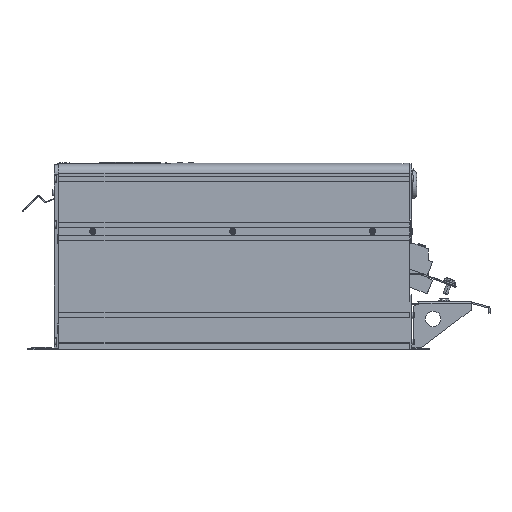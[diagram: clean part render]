
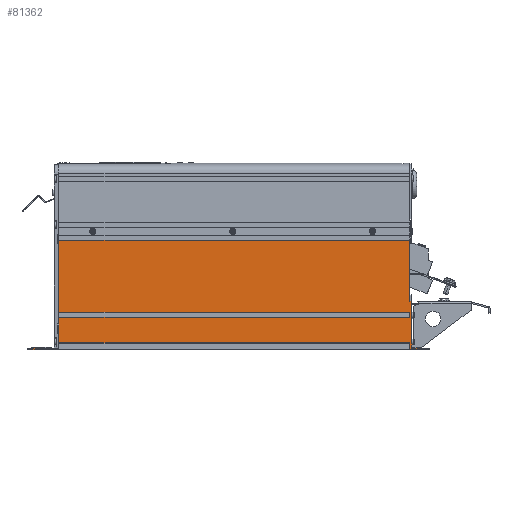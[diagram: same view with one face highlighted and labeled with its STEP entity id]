
A CAD part, left-side view. The second image highlights one B-rep face of the part: STEP entity #81362.
In plain terms, the highlighted planar face has unit normal (-1, 0, 0).
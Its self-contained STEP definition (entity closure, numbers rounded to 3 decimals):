
#219=DIRECTION('',(0.,0.,1.));
#220=VECTOR('',#219,8.);
#221=CARTESIAN_POINT('',(-115.,-227.95,1.1));
#222=LINE('',#221,#220);
#243=DIRECTION('',(0.,0.,1.));
#244=VECTOR('',#243,6.6);
#245=CARTESIAN_POINT('',(-115.,-227.95,42.1));
#246=LINE('',#245,#244);
#673=DIRECTION('',(0.,0.,1.));
#674=VECTOR('',#673,78.6);
#675=CARTESIAN_POINT('',(-115.,-227.95,62.5));
#676=LINE('',#675,#674);
#9723=DIRECTION('',(0.,-1.,0.));
#9724=VECTOR('',#9723,36.);
#9725=CARTESIAN_POINT('',(-115.,259.75,0.));
#9726=LINE('',#9725,#9724);
#9767=DIRECTION('',(0.,-1.,0.));
#9768=VECTOR('',#9767,460.);
#9769=CARTESIAN_POINT('',(-115.,211.75,0.));
#9770=LINE('',#9769,#9768);
#9895=DIRECTION('',(0.,1.,0.));
#9896=VECTOR('',#9895,12.);
#9897=CARTESIAN_POINT('',(-115.,211.75,1.));
#9898=LINE('',#9897,#9896);
#9899=DIRECTION('',(0.,0.,1.));
#9900=VECTOR('',#9899,1.);
#9901=CARTESIAN_POINT('',(-115.,223.75,0.));
#9902=LINE('',#9901,#9900);
#9903=DIRECTION('',(0.,-1.,0.));
#9904=VECTOR('',#9903,451.7);
#9905=CARTESIAN_POINT('',(-115.,223.75,1.1));
#9906=LINE('',#9905,#9904);
#9907=DIRECTION('',(0.,-1.,0.));
#9908=VECTOR('',#9907,451.7);
#9909=CARTESIAN_POINT('',(-115.,223.75,9.1));
#9910=LINE('',#9909,#9908);
#9911=DIRECTION('',(0.,0.,-1.));
#9912=VECTOR('',#9911,12.4);
#9913=CARTESIAN_POINT('',(-115.,223.75,21.5));
#9914=LINE('',#9913,#9912);
#9915=DIRECTION('',(0.,0.,-1.));
#9916=VECTOR('',#9915,8.6);
#9917=CARTESIAN_POINT('',(-115.,223.75,42.1));
#9918=LINE('',#9917,#9916);
#9919=DIRECTION('',(0.,-1.,0.));
#9920=VECTOR('',#9919,451.7);
#9921=CARTESIAN_POINT('',(-115.,223.75,42.1));
#9922=LINE('',#9921,#9920);
#9923=DIRECTION('',(0.,-1.,0.));
#9924=VECTOR('',#9923,451.7);
#9925=CARTESIAN_POINT('',(-115.,223.75,48.7));
#9926=LINE('',#9925,#9924);
#9927=DIRECTION('',(0.,0.,-1.));
#9928=VECTOR('',#9927,87.8);
#9929=CARTESIAN_POINT('',(-115.,223.75,136.5));
#9930=LINE('',#9929,#9928);
#9931=DIRECTION('',(0.,-1.,0.));
#9932=VECTOR('',#9931,451.7);
#9933=CARTESIAN_POINT('',(-115.,223.75,141.1));
#9934=LINE('',#9933,#9932);
#9935=DIRECTION('',(0.,-1.,0.));
#9936=VECTOR('',#9935,2.5);
#9937=CARTESIAN_POINT('',(-115.,-227.95,62.5));
#9938=LINE('',#9937,#9936);
#9939=DIRECTION('',(0.,0.,-1.));
#9940=VECTOR('',#9939,60.);
#9941=CARTESIAN_POINT('',(-115.,-230.45,62.5));
#9942=LINE('',#9941,#9940);
#9943=DIRECTION('',(0.,-1.,0.));
#9944=VECTOR('',#9943,17.8);
#9945=CARTESIAN_POINT('',(-115.,-230.45,2.5));
#9946=LINE('',#9945,#9944);
#9947=DIRECTION('',(0.,0.,1.));
#9948=VECTOR('',#9947,2.5);
#9949=CARTESIAN_POINT('',(-115.,-248.25,0.));
#9950=LINE('',#9949,#9948);
#9951=DIRECTION('',(0.,0.,1.));
#9952=VECTOR('',#9951,1.);
#9953=CARTESIAN_POINT('',(-115.,211.75,0.));
#9954=LINE('',#9953,#9952);
#10039=DIRECTION('',(0.,0.,-1.));
#10040=VECTOR('',#10039,12.);
#10041=CARTESIAN_POINT('',(-115.,223.75,33.5));
#10042=LINE('',#10041,#10040);
#10241=DIRECTION('',(0.,0.,-1.));
#10242=VECTOR('',#10241,4.6);
#10243=CARTESIAN_POINT('',(-115.,223.75,141.1));
#10244=LINE('',#10243,#10242);
#10301=DIRECTION('',(0.,0.,1.));
#10302=VECTOR('',#10301,1.4);
#10303=CARTESIAN_POINT('',(-115.,223.75,1.1));
#10304=LINE('',#10303,#10302);
#15384=DIRECTION('',(0.,1.,0.));
#15385=VECTOR('',#15384,33.);
#15386=CARTESIAN_POINT('',(-115.,226.75,2.5));
#15387=LINE('',#15386,#15385);
#24210=DIRECTION('',(0.,1.,0.));
#24211=VECTOR('',#24210,3.);
#24212=CARTESIAN_POINT('',(-115.,223.75,2.5));
#24213=LINE('',#24212,#24211);
#44552=DIRECTION('',(0.,0.,1.));
#44553=VECTOR('',#44552,2.5);
#44554=CARTESIAN_POINT('',(-115.,259.75,0.));
#44555=LINE('',#44554,#44553);
#55502=CARTESIAN_POINT('',(-115.,223.75,136.5));
#55503=VERTEX_POINT('',#55502);
#55574=CARTESIAN_POINT('',(-115.,223.75,21.5));
#55576=VERTEX_POINT('',#55574);
#55578=CARTESIAN_POINT('',(-115.,223.75,33.5));
#55580=VERTEX_POINT('',#55578);
#58091=CARTESIAN_POINT('',(-115.,223.75,9.1));
#58092=VERTEX_POINT('',#58091);
#58103=CARTESIAN_POINT('',(-115.,223.75,141.1));
#58104=VERTEX_POINT('',#58103);
#58115=CARTESIAN_POINT('',(-115.,-227.95,141.1));
#58116=VERTEX_POINT('',#58115);
#58179=CARTESIAN_POINT('',(-115.,259.75,0.));
#58181=VERTEX_POINT('',#58179);
#58189=CARTESIAN_POINT('',(-115.,259.75,2.5));
#58191=VERTEX_POINT('',#58189);
#58197=CARTESIAN_POINT('',(-115.,226.75,2.5));
#58198=VERTEX_POINT('',#58197);
#58203=CARTESIAN_POINT('',(-115.,223.75,1.1));
#58204=CARTESIAN_POINT('',(-115.,223.75,2.5));
#58205=VERTEX_POINT('',#58203);
#58206=VERTEX_POINT('',#58204);
#58235=CARTESIAN_POINT('',(-115.,-227.95,1.1));
#58236=CARTESIAN_POINT('',(-115.,-227.95,9.1));
#58237=VERTEX_POINT('',#58235);
#58238=VERTEX_POINT('',#58236);
#58275=CARTESIAN_POINT('',(-115.,-248.25,2.5));
#58277=VERTEX_POINT('',#58275);
#58281=CARTESIAN_POINT('',(-115.,-248.25,0.));
#58282=VERTEX_POINT('',#58281);
#58291=CARTESIAN_POINT('',(-115.,-230.45,2.5));
#58292=VERTEX_POINT('',#58291);
#58331=CARTESIAN_POINT('',(-115.,-227.95,62.5));
#58332=CARTESIAN_POINT('',(-115.,-230.45,62.5));
#58333=VERTEX_POINT('',#58331);
#58334=VERTEX_POINT('',#58332);
#59599=CARTESIAN_POINT('',(-115.,223.75,48.7));
#59600=VERTEX_POINT('',#59599);
#59605=CARTESIAN_POINT('',(-115.,223.75,42.1));
#59606=VERTEX_POINT('',#59605);
#59615=CARTESIAN_POINT('',(-115.,-227.95,42.1));
#59616=CARTESIAN_POINT('',(-115.,-227.95,48.7));
#59617=VERTEX_POINT('',#59615);
#59618=VERTEX_POINT('',#59616);
#63810=CARTESIAN_POINT('',(-115.,211.75,1.));
#63811=CARTESIAN_POINT('',(-115.,223.75,1.));
#63812=VERTEX_POINT('',#63810);
#63813=VERTEX_POINT('',#63811);
#63814=CARTESIAN_POINT('',(-115.,211.75,0.));
#63815=VERTEX_POINT('',#63814);
#63816=CARTESIAN_POINT('',(-115.,223.75,0.));
#63817=VERTEX_POINT('',#63816);
#81312=CARTESIAN_POINT('',(-115.,223.75,227.));
#81313=DIRECTION('',(-1.,0.,0.));
#81314=DIRECTION('',(0.,0.,-1.));
#81315=AXIS2_PLACEMENT_3D('',#81312,#81313,#81314);
#81316=PLANE('',#81315);
#81318=ORIENTED_EDGE('',*,*,#81317,.T.);
#81319=ORIENTED_EDGE('',*,*,#81214,.F.);
#81320=ORIENTED_EDGE('',*,*,#81078,.F.);
#81322=ORIENTED_EDGE('',*,*,#81321,.T.);
#81324=ORIENTED_EDGE('',*,*,#81323,.F.);
#81326=ORIENTED_EDGE('',*,*,#81325,.F.);
#81328=ORIENTED_EDGE('',*,*,#81327,.F.);
#81330=ORIENTED_EDGE('',*,*,#81329,.T.);
#81331=ORIENTED_EDGE('',*,*,#66051,.T.);
#81333=ORIENTED_EDGE('',*,*,#81332,.F.);
#81335=ORIENTED_EDGE('',*,*,#81334,.F.);
#81337=ORIENTED_EDGE('',*,*,#81336,.F.);
#81339=ORIENTED_EDGE('',*,*,#81338,.F.);
#81341=ORIENTED_EDGE('',*,*,#81340,.T.);
#81342=ORIENTED_EDGE('',*,*,#66097,.T.);
#81344=ORIENTED_EDGE('',*,*,#81343,.F.);
#81346=ORIENTED_EDGE('',*,*,#81345,.F.);
#81348=ORIENTED_EDGE('',*,*,#81347,.F.);
#81350=ORIENTED_EDGE('',*,*,#81349,.T.);
#81351=ORIENTED_EDGE('',*,*,#66182,.F.);
#81353=ORIENTED_EDGE('',*,*,#81352,.T.);
#81354=ORIENTED_EDGE('',*,*,#69696,.T.);
#81355=ORIENTED_EDGE('',*,*,#80899,.T.);
#81356=ORIENTED_EDGE('',*,*,#80949,.F.);
#81357=ORIENTED_EDGE('',*,*,#81115,.F.);
#81359=ORIENTED_EDGE('',*,*,#81358,.T.);
#81360=EDGE_LOOP('',(#81318,#81319,#81320,#81322,#81324,#81326,#81328,#81330,
#81331,#81333,#81335,#81337,#81339,#81341,#81342,#81344,#81346,#81348,#81350,
#81351,#81353,#81354,#81355,#81356,#81357,#81359));
#81361=FACE_OUTER_BOUND('',#81360,.F.);
#81362=ADVANCED_FACE('',(#81361),#81316,.T.);
#66051=EDGE_CURVE('',#58237,#58238,#222,.T.);
#66097=EDGE_CURVE('',#59617,#59618,#246,.T.);
#66182=EDGE_CURVE('',#58333,#58116,#676,.T.);
#69696=EDGE_CURVE('',#58334,#58292,#9942,.T.);
#80899=EDGE_CURVE('',#58292,#58277,#9946,.T.);
#80949=EDGE_CURVE('',#58282,#58277,#9950,.T.);
#81078=EDGE_CURVE('',#58181,#63817,#9726,.T.);
#81115=EDGE_CURVE('',#63815,#58282,#9770,.T.);
#81214=EDGE_CURVE('',#63817,#63813,#9902,.T.);
#81317=EDGE_CURVE('',#63812,#63813,#9898,.T.);
#81321=EDGE_CURVE('',#58181,#58191,#44555,.T.);
#81323=EDGE_CURVE('',#58198,#58191,#15387,.T.);
#81325=EDGE_CURVE('',#58206,#58198,#24213,.T.);
#81327=EDGE_CURVE('',#58205,#58206,#10304,.T.);
#81329=EDGE_CURVE('',#58205,#58237,#9906,.T.);
#81332=EDGE_CURVE('',#58092,#58238,#9910,.T.);
#81334=EDGE_CURVE('',#55576,#58092,#9914,.T.);
#81336=EDGE_CURVE('',#55580,#55576,#10042,.T.);
#81338=EDGE_CURVE('',#59606,#55580,#9918,.T.);
#81340=EDGE_CURVE('',#59606,#59617,#9922,.T.);
#81343=EDGE_CURVE('',#59600,#59618,#9926,.T.);
#81345=EDGE_CURVE('',#55503,#59600,#9930,.T.);
#81347=EDGE_CURVE('',#58104,#55503,#10244,.T.);
#81349=EDGE_CURVE('',#58104,#58116,#9934,.T.);
#81352=EDGE_CURVE('',#58333,#58334,#9938,.T.);
#81358=EDGE_CURVE('',#63815,#63812,#9954,.T.);
